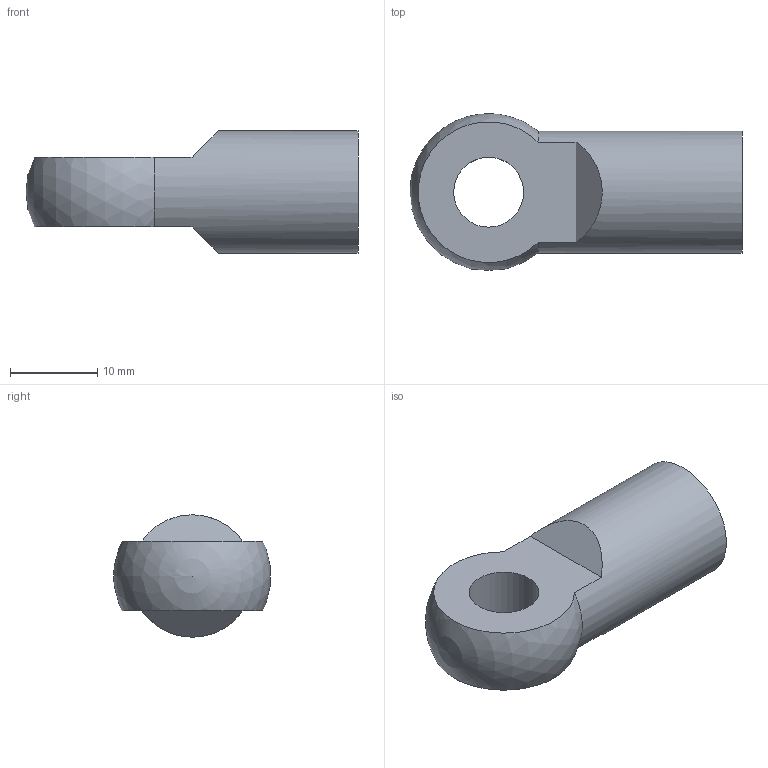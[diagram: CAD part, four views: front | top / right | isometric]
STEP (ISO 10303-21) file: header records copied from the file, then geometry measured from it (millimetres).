
FILE_DESCRIPTION( ( 'STEP AP203' ), '1' );
FILE_NAME( 'C:/Temp/Ganter_Step_05_03_2020/data/3_6/gn752/Joint piece GN 752-8-M8.stp', '2020-03-12T14:12:40', ( 'License CC BY-ND 4.0' ), ( 'CADENAS' ), ' ', 'PARTsolutions', ' ' );
FILE_SCHEMA( ( 'CONFIG_CONTROL_DESIGN' ) );
Length unit declared in the file: millimetre
Products named in the file (1): _Joint piece GN 752-8-M8
Bounding box: 38 x 17.93 x 14 mm (x, y, z)
Volume: 3909.8 mm3; surface area: 2375.3 mm2
Topology: 1 solids, 1 shells, 12 faces, 31 edges, 20 vertices
Faces by surface type: plane 5, cylinder 3, sphere 2, cone 2
Full cylindrical faces by diameter (mm): 6.647 x1, 8 x1, 14 x1
Entity records: 348 total; most frequent: DIRECTION 58, CARTESIAN_POINT 49, ORIENTED_EDGE 38, AXIS2_PLACEMENT_3D 26, EDGE_LOOP 20, EDGE_CURVE 19, VERTEX_POINT 17, FACE_OUTER_BOUND 15
